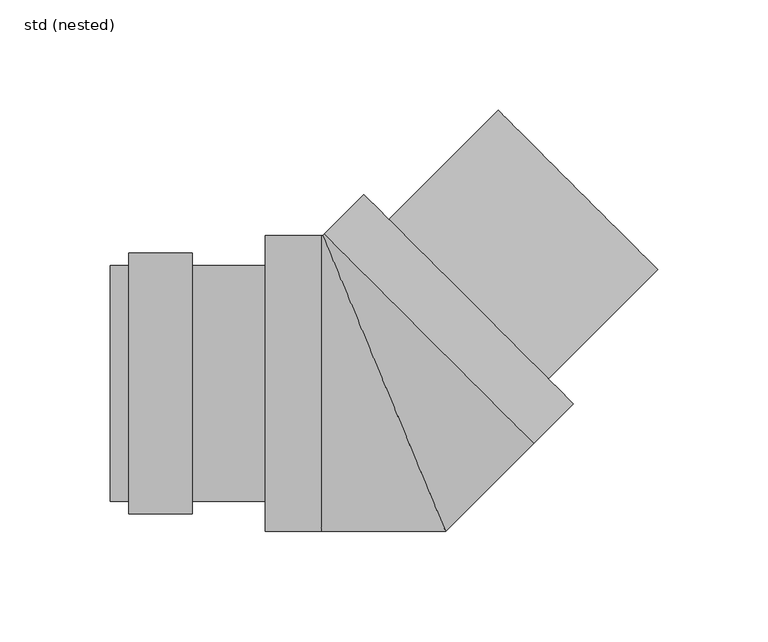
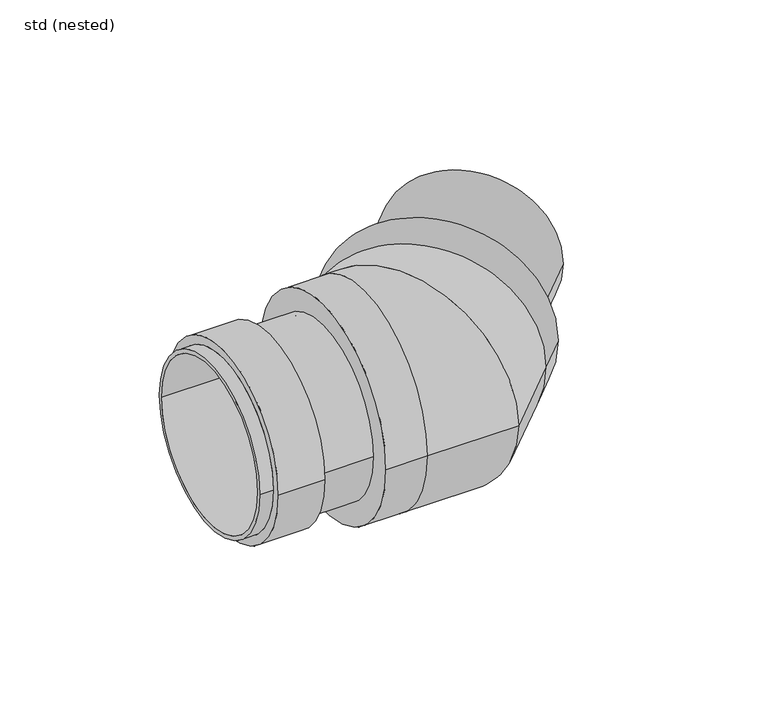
"""IFC4 building model written with IfcOpenShell, lengths in millimetres: pipe fitting geometry, ZZZ_do not use_PIF_ST_WPB_GM-X compound pipe bend_ACO : std (nested)."""

import ifcopenshell
import ifcopenshell.guid

model = None  # the IFC model being written
_history = None  # IfcOwnerHistory: only IFC2X3 demands one
_inside = {}  # id of a spatial element -> (the spatial element, [elements in it])
_under = {}  # id of a project, library or spatial element -> (it, [spatial elements below it])
_declared = {}  # id of a project -> (the project, [libraries it declares])
_typed = {}  # id of a type object -> (the type object, [elements of that type])
_made_of = {}  # id of a material, layer set ... -> (it, [elements and type objects made of it])


def new_model(schema):
    """Start an empty IFC model of exactly this schema.

    Asked for "IFC4X3", IfcOpenShell would pick the latest addendum, in which some entities
    have other attributes; the version numbers below select the first issue.
    IFC2X3 requires an IfcOwnerHistory on every rooted entity: one is made here for all.
    """
    global model, _history
    if schema == "IFC4X3":
        model = ifcopenshell.file(schema_version=(4, 3, 0, 0))
    else:
        model = ifcopenshell.file(schema=schema)
    _inside.clear()
    _under.clear()
    _declared.clear()
    _typed.clear()
    _made_of.clear()
    _history = None
    if model.schema == "IFC2X3":
        org = make("IfcOrganization", Name="unknown")
        user = make(
            "IfcPersonAndOrganization",
            ThePerson=make("IfcPerson", FamilyName="unknown"),
            TheOrganization=org,
        )
        app = make(
            "IfcApplication",
            ApplicationDeveloper=org,
            Version="unknown",
            ApplicationFullName="unknown",
            ApplicationIdentifier="unknown",
        )
        _history = make(
            "IfcOwnerHistory",
            OwningUser=user,
            OwningApplication=app,
            ChangeAction="ADDED",
            CreationDate=0,
        )
    return model


def make(cls, **values):
    """One entity of the class cls with the attributes given. An attribute that is None is left unset."""
    return model.create_entity(
        cls, **{name: value for name, value in values.items() if value is not None}
    )


def rooted(cls, **values):
    """An entity with a GlobalId (a new one), such as an element, a storey or a relation."""
    return make(cls, GlobalId=ifcopenshell.guid.new(), OwnerHistory=_history, **values)


def si_unit(unit_type, name, prefix=None):
    """IfcSIUnit, for example si_unit("LENGTHUNIT", "METRE", prefix="MILLI")."""
    return make("IfcSIUnit", UnitType=unit_type, Prefix=prefix, Name=name)


def assignment(units):
    """IfcUnitAssignment: the units of a project."""
    return None if units is None else make("IfcUnitAssignment", Units=units)


def point(xyz):
    """IfcCartesianPoint."""
    return None if xyz is None else make("IfcCartesianPoint", Coordinates=xyz)


def direction(xyz):
    """IfcDirection."""
    return None if xyz is None else make("IfcDirection", DirectionRatios=xyz)


def frame(location, z_axis=None, x_axis=None):
    """IfcAxis2Placement3D, a coordinate frame: its origin and axes. An axis left out is left unset."""
    return make(
        "IfcAxis2Placement3D",
        Location=point(location),
        Axis=direction(z_axis),
        RefDirection=direction(x_axis),
    )


def frame_2d(location, x_axis=None):
    """IfcAxis2Placement2D, a coordinate frame in the plane: its origin and x axis."""
    return make(
        "IfcAxis2Placement2D", Location=point(location), RefDirection=direction(x_axis)
    )


def origin():
    """The frame at (0, 0, 0) with its axes left unset."""
    return frame((0.0, 0.0, 0.0))


def place(relative_to, where):
    """IfcLocalPlacement: puts the frame where relative to a parent placement (None: the world)."""
    return make(
        "IfcLocalPlacement", PlacementRelTo=relative_to, RelativePlacement=where
    )


def context(
    kind, dimensions, precision=None, world=None, true_north=None, identifier=None
):
    """IfcGeometricRepresentationContext, for example the 3D "Model" context."""
    return make(
        "IfcGeometricRepresentationContext",
        ContextIdentifier=identifier,
        ContextType=kind,
        CoordinateSpaceDimension=dimensions,
        Precision=precision,
        WorldCoordinateSystem=world,
        TrueNorth=true_north,
    )


def project(units=None, contexts=None):
    """IfcProject with its units and contexts."""
    return rooted(
        "IfcProject",
        Name="project",
        RepresentationContexts=contexts,
        UnitsInContext=assignment(units),
    )


def spatial(cls, under=None, at=None, **own):
    """A site, building, storey or space (cls), placed at a placement, below another one or the project."""
    s = rooted(cls, ObjectPlacement=at, **own)
    if under is not None:
        _under.setdefault(under.id(), (under, []))[1].append(s)
    return s


def polyline(points):
    """IfcPolyline through the points."""
    return make("IfcPolyline", Points=[point(p) for p in points])


def circle_curve(where, radius):
    """IfcCircle in the frame where."""
    return make("IfcCircle", Position=where, Radius=radius)


def ellipse_curve(where, semi_axis1, semi_axis2):
    """IfcEllipse in the frame where."""
    return make(
        "IfcEllipse", Position=where, SemiAxis1=semi_axis1, SemiAxis2=semi_axis2
    )


def trimmed(basis, trim1, trim2, sense, master):
    """IfcTrimmedCurve: the piece of a basis curve between two trims."""
    return make(
        "IfcTrimmedCurve",
        BasisCurve=basis,
        Trim1=trim1,
        Trim2=trim2,
        SenseAgreement=sense,
        MasterRepresentation=master,
    )


def segment(curve, same_sense, transition):
    """IfcCompositeCurveSegment."""
    return make(
        "IfcCompositeCurveSegment",
        Transition=transition,
        SameSense=same_sense,
        ParentCurve=curve,
    )


def composite_curve(segments, self_intersect=None):
    """IfcCompositeCurve: segments joined end to end."""
    return make("IfcCompositeCurve", Segments=segments, SelfIntersect=self_intersect)


def outline(outer, holes=None, kind="AREA"):
    """IfcArbitraryClosedProfileDef: a profile drawn as a closed curve; with holes, ...WithVoids."""
    if holes is None:
        return make("IfcArbitraryClosedProfileDef", ProfileType=kind, OuterCurve=outer)
    return make(
        "IfcArbitraryProfileDefWithVoids",
        ProfileType=kind,
        OuterCurve=outer,
        InnerCurves=holes,
    )


def extrude(swept, where, along, depth):
    """IfcExtrudedAreaSolid: the profile swept, set in the frame where, extruded along a direction by depth."""
    return make(
        "IfcExtrudedAreaSolid",
        SweptArea=swept,
        Position=where,
        ExtrudedDirection=direction(along),
        Depth=depth,
    )


def shape(context_of_items, identifier, shape_type, items):
    """IfcShapeRepresentation: the items that make up one representation, for example the "Body"."""
    return make(
        "IfcShapeRepresentation",
        ContextOfItems=context_of_items,
        RepresentationIdentifier=identifier,
        RepresentationType=shape_type,
        Items=items,
    )


def source(mapping_origin, context_of_items, identifier, shape_type, items):
    """IfcRepresentationMap: a shape defined once, which mapped items show again and again."""
    return make(
        "IfcRepresentationMap",
        MappingOrigin=mapping_origin,
        MappedRepresentation=shape(context_of_items, identifier, shape_type, items),
    )


def transform(
    local_origin,
    x_axis=None,
    y_axis=None,
    z_axis=None,
    scale=None,
    scale2=None,
    scale3=None,
    uniform=True,
):
    """IfcCartesianTransformationOperator3D, or its non-uniform kind. x_axis, y_axis, z_axis: its Axis1, 2, 3."""
    if uniform:
        return make(
            "IfcCartesianTransformationOperator3D",
            Axis1=direction(x_axis),
            Axis2=direction(y_axis),
            LocalOrigin=point(local_origin),
            Scale=scale,
            Axis3=direction(z_axis),
        )
    return make(
        "IfcCartesianTransformationOperator3DnonUniform",
        Axis1=direction(x_axis),
        Axis2=direction(y_axis),
        LocalOrigin=point(local_origin),
        Scale=scale,
        Axis3=direction(z_axis),
        Scale2=scale2,
        Scale3=scale3,
    )


def mapped(mapping_source, mapping_target):
    """IfcMappedItem: shows the shape of a source again, moved by a transform."""
    return make(
        "IfcMappedItem", MappingSource=mapping_source, MappingTarget=mapping_target
    )


def made_of(thing, what):
    """Note that an element or type object is made of a material, layer set ...; save() writes the relation."""
    if what is not None:
        _made_of.setdefault(what.id(), (what, []))[1].append(thing)
    return thing


def element(
    cls,
    number,
    at=None,
    inside=None,
    cuts=None,
    type_object=None,
    material=None,
    context=None,
    identifier="Body",
    shape_type=None,
    held_by="IfcProductDefinitionShape",
    body=None,
    shapes=None,
    **own,
):
    """One element of the class cls, such as IfcWall. Its Tag is "e" and its number.

    at: its placement. inside: the storey or other place that contains it. cuts: it is an
    opening in that element (IfcRelVoidsElement). A single representation is given by context,
    identifier, shape_type and body (its items); several are given by shapes. held_by: the class
    of the entity that holds the representations. save() writes the other relations.
    """
    e = rooted(cls, Tag="e%d" % number, ObjectPlacement=at, **own)
    if body is not None:
        shapes = [shape(context, identifier, shape_type, body)]
    if shapes is not None:
        e.Representation = make(held_by, Representations=shapes)
    if inside is not None:
        _inside.setdefault(inside.id(), (inside, []))[1].append(e)
    if cuts is not None:
        rooted(
            "IfcRelVoidsElement", RelatingBuildingElement=cuts, RelatedOpeningElement=e
        )
    if type_object is not None:
        _typed.setdefault(type_object.id(), (type_object, []))[1].append(e)
    return made_of(e, material)


def aggregate(whole, parts):
    """IfcRelAggregates: a whole, such as a stair, and the parts it consists of."""
    return rooted("IfcRelAggregates", RelatingObject=whole, RelatedObjects=parts)


def save(model, path):
    """Write the relations noted so far, then the file.

    IfcRelAggregates (storeys below a building ...), IfcRelContainedInSpatialStructure (elements
    in a storey), IfcRelDefinesByType, IfcRelAssociatesMaterial and IfcRelDeclares: one each for
    every whole, place, type object, material and project.
    """
    for whole, parts in _under.values():
        aggregate(whole, parts)
    for where, things in _inside.values():
        rooted(
            "IfcRelContainedInSpatialStructure",
            RelatedElements=things,
            RelatingStructure=where,
        )
    for kind, things in _typed.values():
        rooted("IfcRelDefinesByType", RelatedObjects=things, RelatingType=kind)
    for what, things in _made_of.values():
        rooted("IfcRelAssociatesMaterial", RelatedObjects=things, RelatingMaterial=what)
    for by, libraries in _declared.values():
        rooted("IfcRelDeclares", RelatingContext=by, RelatedDefinitions=libraries)
    model.write(path)


def plane_surface(at):
    """IfcPlane: the flat surface through the origin of the frame at, square to its z axis."""
    return make("IfcPlane", Position=at)


def cylinder_surface(at, radius):
    """IfcCylindricalSurface: all points at the distance radius from the z axis of the frame at."""
    return make("IfcCylindricalSurface", Position=at, Radius=radius)


def revolved_surface(curve, axis_point, axis_direction):
    """IfcSurfaceOfRevolution: the curve turned about the line through axis_point along axis_direction."""
    return make(
        "IfcSurfaceOfRevolution",
        SweptCurve=make("IfcArbitraryOpenProfileDef", ProfileType="CURVE", Curve=curve),
        AxisPosition=make("IfcAxis1Placement", Location=point(axis_point), Axis=direction(axis_direction)),
    )


def advanced_brep(points, edges, surfaces, faces):
    """IfcAdvancedBrep: a solid bounded by faces that lie on surfaces and meet in shared edges.

    An edge is (start, end): straight between two places in points (the first is 0);
    or (start, end, curve); or (start, end, curve, False) where it runs against its curve.
    A face is (place in surfaces, loops), or (place, loops, False) where it looks against
    its surface's normal. A loop lists edges by number (the first is 1), with a minus sign
    where the edge is run from its end to its start. The first loop is the outer one.
    """
    corners = [point(p) for p in points]
    vertices = [make("IfcVertexPoint", VertexGeometry=c) for c in corners]
    made = []
    for start, end, *more in edges:
        made.append(
            make(
                "IfcEdgeCurve",
                EdgeStart=vertices[start],
                EdgeEnd=vertices[end],
                EdgeGeometry=more[0] if more else make("IfcPolyline", Points=[corners[start], corners[end]]),
                SameSense=more[1] if len(more) > 1 else True,
            )
        )
    hull = []
    for where, loops, *sense in faces:
        bounds = []
        for j, loop in enumerate(loops):
            ring = [make("IfcOrientedEdge", EdgeElement=made[abs(k) - 1], Orientation=k > 0) for k in loop]
            bounds.append(
                make(
                    "IfcFaceOuterBound" if j == 0 else "IfcFaceBound",
                    Bound=make("IfcEdgeLoop", EdgeList=ring),
                    Orientation=True,
                )
            )
        hull.append(make("IfcAdvancedFace", Bounds=bounds, FaceSurface=surfaces[where], SameSense=sense[0] if sense else True))
    return make("IfcAdvancedBrep", Outer=make("IfcClosedShell", CfsFaces=hull))


def std_nested_c6ab956b(model_context):
    return source(origin(), model_context, "Body", "SolidModel", [
        advanced_brep(
        [(-115.7, -59.0, 0.0), (-115.7, 59.0, 0.0), (-87.0, 59.0, 0.0), (-87.0, -59.0, 0.0), (-124.0, 53.5, 0.0), (-124.0, -53.5, 0.0), (-124.0, -51.0, 0.0), (-124.0, 51.0, 0.0), (-54.0, 53.5, 0.0), (-54.0, -53.5, 0.0), (-54.0, 51.0, 0.0), (-54.0, -51.0, 0.0), (-115.7, 53.5, 0.0), (-115.7, -53.5, 0.0), (-87.0, -53.5, 0.0), (-87.0, 53.5, 0.0)],
        [
            (0, 1, circle_curve(frame((-115.7, 0.0, 0.0), z_axis=(1.0, 0.0, 0.0), x_axis=(0.0, -1.0, 0.0)), 59.0)),
            (1, 2),
            (2, 3, circle_curve(frame((-87.0, 0.0, 0.0), z_axis=(-1.0, 0.0, 0.0), x_axis=(0.0, -1.0, 0.0)), 59.0)),
            (3, 0),
            (1, 0, circle_curve(frame((-115.7, 0.0, 0.0), z_axis=(1.0, 0.0, 0.0), x_axis=(0.0, -1.0, 0.0)), 59.0)),
            (3, 2, circle_curve(frame((-87.0, 0.0, 0.0), z_axis=(-1.0, 0.0, 0.0), x_axis=(0.0, -1.0, 0.0)), 59.0)),
            (4, 5, circle_curve(frame((-124.0, 0.0, 0.0), z_axis=(-1.0, 0.0, 0.0), x_axis=(0.0, -1.0, 0.0)), 53.5)),
            (5, 4, circle_curve(frame((-124.0, 0.0, 0.0), z_axis=(-1.0, 0.0, 0.0), x_axis=(0.0, -1.0, 0.0)), 53.5)),
            (6, 7, circle_curve(frame((-124.0, 0.0, 0.0), z_axis=(1.0, 0.0, 0.0), x_axis=(0.0, -1.0, 0.0)), 51.0)),
            (7, 6, circle_curve(frame((-124.0, 0.0, 0.0), z_axis=(1.0, 0.0, 0.0), x_axis=(0.0, -1.0, 0.0)), 51.0)),
            (8, 9, circle_curve(frame((-54.0, 0.0, 0.0), z_axis=(1.0, 0.0, 0.0), x_axis=(0.0, -1.0, 0.0)), 53.5)),
            (9, 8, circle_curve(frame((-54.0, 0.0, 0.0), z_axis=(1.0, 0.0, 0.0), x_axis=(0.0, -1.0, 0.0)), 53.5)),
            (10, 11, circle_curve(frame((-54.0, 0.0, 0.0), z_axis=(-1.0, 0.0, 0.0), x_axis=(0.0, -1.0, 0.0)), 51.0)),
            (11, 10, circle_curve(frame((-54.0, 0.0, 0.0), z_axis=(-1.0, 0.0, 0.0), x_axis=(0.0, -1.0, 0.0)), 51.0)),
            (4, 12),
            (12, 13, circle_curve(frame((-115.7, 0.0, 0.0), z_axis=(-1.0, 0.0, 0.0), x_axis=(0.0, -1.0, 0.0)), 53.5)),
            (13, 5),
            (9, 14),
            (14, 15, circle_curve(frame((-87.0, 0.0, 0.0), z_axis=(1.0, 0.0, 0.0), x_axis=(0.0, -1.0, 0.0)), 53.5)),
            (15, 8),
            (13, 12, circle_curve(frame((-115.7, 0.0, 0.0), z_axis=(-1.0, 0.0, 0.0), x_axis=(0.0, -1.0, 0.0)), 53.5)),
            (15, 14, circle_curve(frame((-87.0, 0.0, 0.0), z_axis=(1.0, 0.0, 0.0), x_axis=(0.0, -1.0, 0.0)), 53.5)),
            (6, 11),
            (10, 7),
        ],
        [
            cylinder_surface(frame((-87.0, 0.0, 0.0), z_axis=(-1.0, 0.0, 0.0), x_axis=(0.0, -1.0, 0.0)), 59.0),
            plane_surface(frame((-124.0, -53.5, 0.0), z_axis=(-1.0, 0.0, 0.0), x_axis=(0.0, 0.0, 1.0))),
            plane_surface(frame((-54.0, -53.5, 0.0), z_axis=(1.0, 0.0, 0.0), x_axis=(0.0, 0.0, -1.0))),
            cylinder_surface(frame((-54.0, 0.0, 0.0), z_axis=(-1.0, 0.0, 0.0), x_axis=(0.0, -1.0, 0.0)), 53.5),
            revolved_surface(polyline([(-124.0, -51.0, 0.0), (-54.0, -51.0, 0.0)]), (-54.0, 0.0, 0.0), (-1.0, 0.0, 0.0)),
            plane_surface(frame((-115.7, -59.0, 0.0), z_axis=(-1.0, 0.0, 0.0), x_axis=(0.0, 0.0, 1.0))),
            plane_surface(frame((-87.0, -59.0, 0.0), z_axis=(1.0, 0.0, 0.0), x_axis=(0.0, 0.0, -1.0))),
        ],
        [
            (0, [[1, 2, 3, 4]]),
            (0, [[5, -4, 6, -2]]),
            (1, [[7, 8], [9, 10]]),
            (2, [[11, 12], [13, 14]]),
            (3, [[-7, 15, 16, 17]]),
            (3, [[-12, 18, 19, 20]]),
            (3, [[-8, -17, 21, -15]]),
            (3, [[-11, -20, 22, -18]]),
            (4, [[23, -13, 24, -9]]),
            (4, [[-23, -10, -24, -14]]),
            (5, [[-1, -5], [-16, -21]]),
            (6, [[-6, -3], [-19, -22]]),
        ],
    ),
        extrude(outline(composite_curve([segment(trimmed(circle_curve(frame_2d((0.0, -51.0)), 51.0), [point((0.0, -102.0))], [point((0.0, 0.0))], False, "CARTESIAN"), True, "CONTINUOUS"), segment(trimmed(circle_curve(frame_2d((0.0, -51.0)), 51.0), [point((0.0, 0.0))], [point((0.0, -102.0))], False, "CARTESIAN"), True, "CONTINUOUS")], self_intersect=False)), frame((74.246212, 2.1213203, 0.0), z_axis=(0.7071067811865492, 0.7071067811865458, 0.0), x_axis=(0.0, 0.0, 1.0)), (0.0, 0.0, 1.0), 70.0),
        advanced_brep(
        [(-28.5807358, -67.0, 0.0), (-28.5807358, 67.0, 0.0), (-54.0, 67.0, 0.0), (-54.0, -67.0, 0.0), (27.7523087, -67.0, 0.0), (-27.7523087, 67.0, 0.0), (67.5857864, -27.1665222, 0.0), (-27.1665222, 67.5857864, 0.0), (-9.1923882, 85.5599205, 0.0), (85.5599205, -9.1923882, 0.0)],
        [
            (0, 1, circle_curve(frame((-28.5807358, 0.0, 0.0), z_axis=(-1.0, 0.0, 0.0), x_axis=(0.0, 1.0, 0.0)), 67.0)),
            (1, 2),
            (2, 3, circle_curve(frame((-54.0, 0.0, 0.0), z_axis=(1.0, 0.0, 0.0), x_axis=(0.0, 1.0, 0.0)), 67.0)),
            (3, 0),
            (1, 0, circle_curve(frame((-28.5807358, 0.0, 0.0), z_axis=(-1.0, 0.0, 0.0), x_axis=(0.0, 1.0, 0.0)), 67.0)),
            (3, 2, circle_curve(frame((-54.0, 0.0, 0.0), z_axis=(1.0, 0.0, 0.0), x_axis=(0.0, 1.0, 0.0)), 67.0)),
            (0, 4),
            (4, 5, ellipse_curve(frame((0.0, 0.0, 0.0), z_axis=(-0.9238795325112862, -0.3826834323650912, 0.0), x_axis=(-0.38268343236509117, 0.9238795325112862, 0.0)), 72.5202774, 67.0)),
            (5, 1),
            (5, 4, ellipse_curve(frame((0.0, 0.0, 0.0), z_axis=(-0.9238795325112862, -0.3826834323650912, 0.0), x_axis=(-0.38268343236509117, 0.9238795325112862, 0.0)), 72.5202774, 67.0)),
            (4, 6),
            (6, 7, circle_curve(frame((20.2096321, 20.2096321, 0.0), z_axis=(-0.7071067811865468, -0.7071067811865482, 0.0), x_axis=(-0.7071067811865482, 0.7071067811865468, 0.0)), 67.0)),
            (7, 5),
            (7, 6, circle_curve(frame((20.2096321, 20.2096321, 0.0), z_axis=(-0.7071067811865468, -0.7071067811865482, 0.0), x_axis=(-0.7071067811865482, 0.7071067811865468, 0.0)), 67.0)),
            (8, 9, circle_curve(frame((38.1837662, 38.1837662, 0.0), z_axis=(0.7071067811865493, 0.7071067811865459, 0.0), x_axis=(0.7071067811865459, -0.7071067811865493, 0.0)), 67.0)),
            (9, 8, circle_curve(frame((38.1837662, 38.1837662, 0.0), z_axis=(0.7071067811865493, 0.7071067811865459, 0.0), x_axis=(0.7071067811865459, -0.7071067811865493, 0.0)), 67.0)),
            (6, 9),
            (8, 7),
        ],
        [
            cylinder_surface(frame((-28.5807358, 0.0, 0.0), z_axis=(-1.0, 0.0, 0.0), x_axis=(0.0, 1.0, 0.0)), 67.0),
            cylinder_surface(frame((0.0, 0.0, 0.0), z_axis=(-0.7071067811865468, -0.7071067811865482, 0.0), x_axis=(-0.7071067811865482, 0.7071067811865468, 0.0)), 67.0),
            plane_surface(frame((-54.0, 67.0, 0.0), z_axis=(-1.0, 0.0, 0.0), x_axis=(0.0, 0.0, 1.0))),
            plane_surface(frame((85.5599205, -9.1923882, 0.0), z_axis=(0.7071067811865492, 0.7071067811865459, 0.0), x_axis=(0.0, 0.0, 1.0))),
            cylinder_surface(frame((20.2096321, 20.2096321, 0.0), z_axis=(0.7071067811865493, 0.7071067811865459, 0.0), x_axis=(0.7071067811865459, -0.7071067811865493, 0.0)), 67.0),
        ],
        [
            (0, [[1, 2, 3, 4]]),
            (0, [[5, -4, 6, -2]]),
            (0, [[7, 8, 9, -1]]),
            (0, [[-7, -5, -9, 10]]),
            (1, [[-8, 11, 12, 13]]),
            (1, [[-10, -13, 14, -11]]),
            (2, [[-3, -6]]),
            (3, [[15, 16]]),
            (4, [[-12, 17, -15, 18]]),
            (4, [[-14, -18, -16, -17]]),
        ],
    ),
    ])


if __name__ == "__main__":
    model = new_model("IFC4")
    model_context = context("Model", 3, world=origin())
    ifc_project = project(units=[si_unit("LENGTHUNIT", "METRE", prefix="MILLI")], contexts=[model_context])
    site = spatial("IfcSite", under=ifc_project)
    building = spatial("IfcBuilding", under=site)
    placement = place(None, origin())
    std_nested_shape = std_nested_c6ab956b(model_context)
    element("IfcPipeFitting", 1, ObjectType="ZZZ_do not use_PIF_ST_WPB_GM-X compound pipe bend_ACO : std (nested)", at=placement, inside=building, context=model_context, shape_type="MappedRepresentation", body=[
        mapped(std_nested_shape, transform((0.0, 0.0, 0.0), x_axis=(1.0, 0.0, 0.0), y_axis=(0.0, 1.0, 0.0), z_axis=(0.0, 0.0, 1.0))),
    ])
    save(model, "model.ifc")
